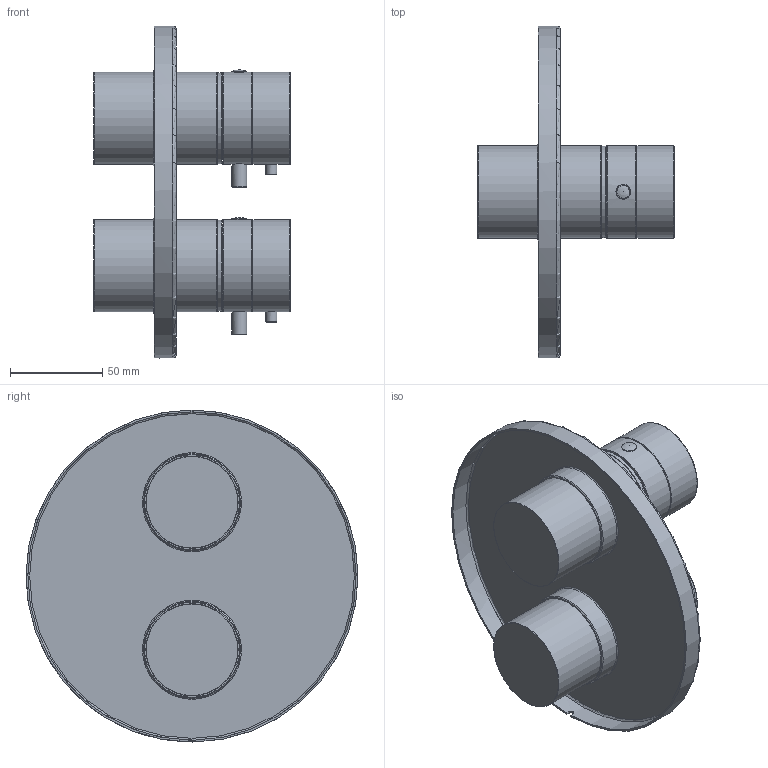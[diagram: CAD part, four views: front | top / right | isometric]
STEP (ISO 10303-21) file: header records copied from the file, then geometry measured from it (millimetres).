
FILE_DESCRIPTION(/* description */ (''),/* implementation_level */ '2;1');
FILE_NAME(/* name */ 'X:\Utilisateurs\Simon\SYTM46 3D.stp',/* time_stamp */ '2017-04-07T11:33:26-04:00',/* author */ ('simonb'),/* organization */ (''),/* preprocessor_version */ 'ST-DEVELOPER v15.6',/* originating_system */ 'Autodesk Inventor 2015',/* authorisation */ '');
FILE_SCHEMA (('AUTOMOTIVE_DESIGN { 1 0 10303 214 3 1 1 }'));
Length unit declared in the file: millimetre
Products named in the file (1): SYTM46_Shrinkwrap_1
Bounding box: 106.64 x 180 x 180 mm (x, y, z)
Volume: 451475.1 mm3; surface area: 103099.6 mm2
Topology: 1 solids, 1 shells, 94 faces, 189 edges, 115 vertices
Faces by surface type: torus 32, cylinder 29, plane 29, bspline 2, cone 2
Full cylindrical faces by diameter (mm): 6 x2, 8 x4, 32.2 x2, 45 x2, 49.5 x2, 50 x8, 52.5 x2, 178 x1, 180 x1
Entity records: 2498 total; most frequent: CARTESIAN_POINT 644, DIRECTION 370, ORIENTED_EDGE 242, AXIS2_PLACEMENT_3D 179, EDGE_LOOP 170, EDGE_CURVE 117, VERTEX_POINT 101, STYLED_ITEM 95
